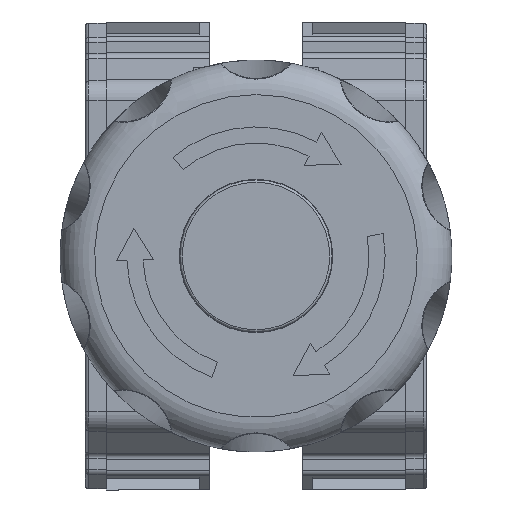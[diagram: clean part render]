
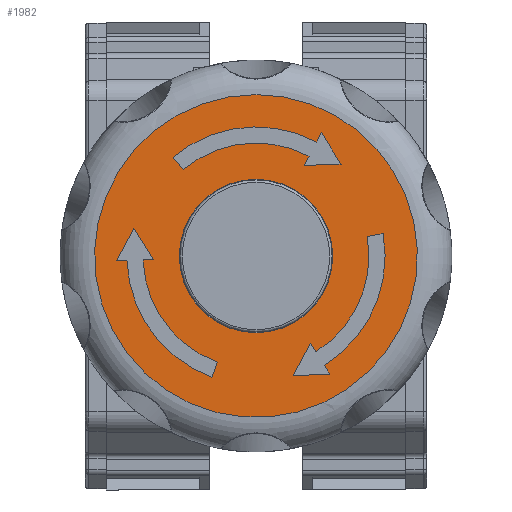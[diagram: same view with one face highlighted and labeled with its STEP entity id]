
A CAD part, left-side view. The second image highlights one B-rep face of the part: STEP entity #1982.
In plain terms, the highlighted planar face has unit normal (-1, 0, 0).
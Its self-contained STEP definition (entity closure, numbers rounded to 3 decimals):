
#1740=CARTESIAN_POINT('',(-35.,0.,6.65));
#1741=VERTEX_POINT('',#1740);
#1742=CARTESIAN_POINT('',(-35.,0.,0.));
#1743=DIRECTION('',(1.0,0.0,0.0));
#1744=DIRECTION('',(0.0,0.0,1.0));
#1745=AXIS2_PLACEMENT_3D('',#1742,#1743,#1744);
#1746=CIRCLE('',#1745,6.65);
#1747=EDGE_CURVE('',#1741,#1741,#1746,.T.);
#1783=CARTESIAN_POINT('',(-35.,0.,11.825));
#1784=DIRECTION('',(-1.0,0.0,0.0));
#1785=DIRECTION('',(0.0,-1.0,0.0));
#1786=AXIS2_PLACEMENT_3D('',#1783,#1784,#1785);
#1787=PLANE('',#1786);
#1788=CARTESIAN_POINT('',(-35.,0.,14.));
#1789=VERTEX_POINT('',#1788);
#1790=CARTESIAN_POINT('',(-35.,0.,0.));
#1791=DIRECTION('',(1.0,0.0,0.0));
#1792=DIRECTION('',(0.0,0.0,-1.0));
#1793=AXIS2_PLACEMENT_3D('',#1790,#1791,#1792);
#1794=CIRCLE('',#1793,14.);
#1795=EDGE_CURVE('',#1789,#1789,#1794,.T.);
#1796=ORIENTED_EDGE('',*,*,#1795,.F.);
#1797=EDGE_LOOP('',(#1796));
#1798=FACE_OUTER_BOUND('',#1797,.T.);
#1799=CARTESIAN_POINT('',(-35.,-5.258,9.889));
#1800=VERTEX_POINT('',#1799);
#1801=CARTESIAN_POINT('',(-35.,-5.681,10.684));
#1802=VERTEX_POINT('',#1801);
#1803=CARTESIAN_POINT('',(-35.,-5.258,9.889));
#1804=DIRECTION('',(0.,-0.469,0.883));
#1805=VECTOR('',#1804,0.9);
#1806=LINE('',#1803,#1805);
#1807=EDGE_CURVE('',#1800,#1802,#1806,.T.);
#1808=ORIENTED_EDGE('',*,*,#1807,.T.);
#1809=CARTESIAN_POINT('',(-35.,-7.376,7.97));
#1810=VERTEX_POINT('',#1809);
#1811=CARTESIAN_POINT('',(-35.,-5.681,10.684));
#1812=DIRECTION('',(0.,-0.53,-0.848));
#1813=VECTOR('',#1812,3.2);
#1814=LINE('',#1811,#1813);
#1815=EDGE_CURVE('',#1802,#1810,#1814,.T.);
#1816=ORIENTED_EDGE('',*,*,#1815,.T.);
#1817=CARTESIAN_POINT('',(-35.,-4.178,7.858));
#1818=VERTEX_POINT('',#1817);
#1819=CARTESIAN_POINT('',(-35.,-7.376,7.97));
#1820=DIRECTION('',(0.,0.999,-0.035));
#1821=VECTOR('',#1820,3.2);
#1822=LINE('',#1819,#1821);
#1823=EDGE_CURVE('',#1810,#1818,#1822,.T.);
#1824=ORIENTED_EDGE('',*,*,#1823,.T.);
#1825=CARTESIAN_POINT('',(-35.,-4.601,8.653));
#1826=VERTEX_POINT('',#1825);
#1827=CARTESIAN_POINT('',(-35.,-4.178,7.858));
#1828=DIRECTION('',(0.0,-0.469,0.883));
#1829=VECTOR('',#1828,0.9);
#1830=LINE('',#1827,#1829);
#1831=EDGE_CURVE('',#1818,#1826,#1830,.T.);
#1832=ORIENTED_EDGE('',*,*,#1831,.T.);
#1833=CARTESIAN_POINT('',(-35.,6.299,7.507));
#1834=VERTEX_POINT('',#1833);
#1835=CARTESIAN_POINT('',(-35.,0.,0.));
#1836=DIRECTION('',(-1.0,0.,0.));
#1837=DIRECTION('',(0.,-0.469,0.883));
#1838=AXIS2_PLACEMENT_3D('',#1835,#1836,#1837);
#1839=CIRCLE('',#1838,9.8);
#1840=EDGE_CURVE('',#1826,#1834,#1839,.T.);
#1841=ORIENTED_EDGE('',*,*,#1840,.T.);
#1842=CARTESIAN_POINT('',(-35.,7.199,8.58));
#1843=VERTEX_POINT('',#1842);
#1844=CARTESIAN_POINT('',(-35.,6.299,7.507));
#1845=DIRECTION('',(0.,0.643,0.766));
#1846=VECTOR('',#1845,1.4);
#1847=LINE('',#1844,#1846);
#1848=EDGE_CURVE('',#1834,#1843,#1847,.T.);
#1849=ORIENTED_EDGE('',*,*,#1848,.T.);
#1850=CARTESIAN_POINT('',(-35.,0.,0.));
#1851=DIRECTION('',(1.,0.,0.));
#1852=DIRECTION('',(0.,0.469,-0.883));
#1853=AXIS2_PLACEMENT_3D('',#1850,#1851,#1852);
#1854=CIRCLE('',#1853,11.2);
#1855=EDGE_CURVE('',#1843,#1800,#1854,.T.);
#1856=ORIENTED_EDGE('',*,*,#1855,.T.);
#1857=EDGE_LOOP('',(#1808,#1816,#1824,#1832,#1841,#1849,#1856));
#1858=FACE_BOUND('',#1857,.T.);
#1859=CARTESIAN_POINT('',(-35.,11.193,-0.391));
#1860=VERTEX_POINT('',#1859);
#1861=CARTESIAN_POINT('',(-35.,12.093,-0.422));
#1862=VERTEX_POINT('',#1861);
#1863=CARTESIAN_POINT('',(-35.,11.193,-0.391));
#1864=DIRECTION('',(0.,0.999,-0.035));
#1865=VECTOR('',#1864,0.9);
#1866=LINE('',#1863,#1865);
#1867=EDGE_CURVE('',#1860,#1862,#1866,.T.);
#1868=ORIENTED_EDGE('',*,*,#1867,.T.);
#1869=CARTESIAN_POINT('',(-35.,10.59,2.403));
#1870=VERTEX_POINT('',#1869);
#1871=CARTESIAN_POINT('',(-35.,12.093,-0.422));
#1872=DIRECTION('',(0.,-0.469,0.883));
#1873=VECTOR('',#1872,3.2);
#1874=LINE('',#1871,#1873);
#1875=EDGE_CURVE('',#1862,#1870,#1874,.T.);
#1876=ORIENTED_EDGE('',*,*,#1875,.T.);
#1877=CARTESIAN_POINT('',(-35.,8.895,-0.311));
#1878=VERTEX_POINT('',#1877);
#1879=CARTESIAN_POINT('',(-35.,10.59,2.403));
#1880=DIRECTION('',(0.,-0.53,-0.848));
#1881=VECTOR('',#1880,3.2);
#1882=LINE('',#1879,#1881);
#1883=EDGE_CURVE('',#1870,#1878,#1882,.T.);
#1884=ORIENTED_EDGE('',*,*,#1883,.T.);
#1885=CARTESIAN_POINT('',(-35.,9.794,-0.342));
#1886=VERTEX_POINT('',#1885);
#1887=CARTESIAN_POINT('',(-35.,8.895,-0.311));
#1888=DIRECTION('',(0.,0.999,-0.035));
#1889=VECTOR('',#1888,0.9);
#1890=LINE('',#1887,#1889);
#1891=EDGE_CURVE('',#1878,#1886,#1890,.T.);
#1892=ORIENTED_EDGE('',*,*,#1891,.T.);
#1893=CARTESIAN_POINT('',(-35.,3.352,-9.209));
#1894=VERTEX_POINT('',#1893);
#1895=CARTESIAN_POINT('',(-35.,0.,0.));
#1896=DIRECTION('',(-1.0,0.,0.));
#1897=DIRECTION('',(0.,0.999,-0.035));
#1898=AXIS2_PLACEMENT_3D('',#1895,#1896,#1897);
#1899=CIRCLE('',#1898,9.8);
#1900=EDGE_CURVE('',#1886,#1894,#1899,.T.);
#1901=ORIENTED_EDGE('',*,*,#1900,.T.);
#1902=CARTESIAN_POINT('',(-35.,3.831,-10.525));
#1903=VERTEX_POINT('',#1902);
#1904=CARTESIAN_POINT('',(-35.,3.352,-9.209));
#1905=DIRECTION('',(0.0,0.342,-0.94));
#1906=VECTOR('',#1905,1.4);
#1907=LINE('',#1904,#1906);
#1908=EDGE_CURVE('',#1894,#1903,#1907,.T.);
#1909=ORIENTED_EDGE('',*,*,#1908,.T.);
#1910=CARTESIAN_POINT('',(-35.,0.,0.));
#1911=DIRECTION('',(1.,0.,0.));
#1912=DIRECTION('',(0.,-0.999,0.035));
#1913=AXIS2_PLACEMENT_3D('',#1910,#1911,#1912);
#1914=CIRCLE('',#1913,11.2);
#1915=EDGE_CURVE('',#1903,#1860,#1914,.T.);
#1916=ORIENTED_EDGE('',*,*,#1915,.T.);
#1917=EDGE_LOOP('',(#1868,#1876,#1884,#1892,#1901,#1909,#1916));
#1918=FACE_BOUND('',#1917,.T.);
#1919=CARTESIAN_POINT('',(-35.,-5.935,-9.498));
#1920=VERTEX_POINT('',#1919);
#1921=CARTESIAN_POINT('',(-35.,-6.412,-10.261));
#1922=VERTEX_POINT('',#1921);
#1923=CARTESIAN_POINT('',(-35.,-5.935,-9.498));
#1924=DIRECTION('',(0.,-0.53,-0.848));
#1925=VECTOR('',#1924,0.9);
#1926=LINE('',#1923,#1925);
#1927=EDGE_CURVE('',#1920,#1922,#1926,.T.);
#1928=ORIENTED_EDGE('',*,*,#1927,.T.);
#1929=CARTESIAN_POINT('',(-35.,-3.214,-10.373));
#1930=VERTEX_POINT('',#1929);
#1931=CARTESIAN_POINT('',(-35.,-6.412,-10.261));
#1932=DIRECTION('',(0.,0.999,-0.035));
#1933=VECTOR('',#1932,3.2);
#1934=LINE('',#1931,#1933);
#1935=EDGE_CURVE('',#1922,#1930,#1934,.T.);
#1936=ORIENTED_EDGE('',*,*,#1935,.T.);
#1937=CARTESIAN_POINT('',(-35.,-4.716,-7.548));
#1938=VERTEX_POINT('',#1937);
#1939=CARTESIAN_POINT('',(-35.,-3.214,-10.373));
#1940=DIRECTION('',(0.,-0.469,0.883));
#1941=VECTOR('',#1940,3.2);
#1942=LINE('',#1939,#1941);
#1943=EDGE_CURVE('',#1930,#1938,#1942,.T.);
#1944=ORIENTED_EDGE('',*,*,#1943,.T.);
#1945=CARTESIAN_POINT('',(-35.,-5.193,-8.311));
#1946=VERTEX_POINT('',#1945);
#1947=CARTESIAN_POINT('',(-35.,-4.716,-7.548));
#1948=DIRECTION('',(0.,-0.53,-0.848));
#1949=VECTOR('',#1948,0.9);
#1950=LINE('',#1947,#1949);
#1951=EDGE_CURVE('',#1938,#1946,#1950,.T.);
#1952=ORIENTED_EDGE('',*,*,#1951,.T.);
#1953=CARTESIAN_POINT('',(-35.,-9.651,1.702));
#1954=VERTEX_POINT('',#1953);
#1955=CARTESIAN_POINT('',(-35.,0.,0.));
#1956=DIRECTION('',(-1.0,0.,0.));
#1957=DIRECTION('',(0.,-0.53,-0.848));
#1958=AXIS2_PLACEMENT_3D('',#1955,#1956,#1957);
#1959=CIRCLE('',#1958,9.8);
#1960=EDGE_CURVE('',#1946,#1954,#1959,.T.);
#1961=ORIENTED_EDGE('',*,*,#1960,.T.);
#1962=CARTESIAN_POINT('',(-35.,-11.03,1.945));
#1963=VERTEX_POINT('',#1962);
#1964=CARTESIAN_POINT('',(-35.,-9.651,1.702));
#1965=DIRECTION('',(0.,-0.985,0.174));
#1966=VECTOR('',#1965,1.4);
#1967=LINE('',#1964,#1966);
#1968=EDGE_CURVE('',#1954,#1963,#1967,.T.);
#1969=ORIENTED_EDGE('',*,*,#1968,.T.);
#1970=CARTESIAN_POINT('',(-35.,0.,0.));
#1971=DIRECTION('',(1.,0.,0.));
#1972=DIRECTION('',(0.,0.53,0.848));
#1973=AXIS2_PLACEMENT_3D('',#1970,#1971,#1972);
#1974=CIRCLE('',#1973,11.2);
#1975=EDGE_CURVE('',#1963,#1920,#1974,.T.);
#1976=ORIENTED_EDGE('',*,*,#1975,.T.);
#1977=EDGE_LOOP('',(#1928,#1936,#1944,#1952,#1961,#1969,#1976));
#1978=FACE_BOUND('',#1977,.T.);
#1979=ORIENTED_EDGE('',*,*,#1747,.T.);
#1980=EDGE_LOOP('',(#1979));
#1981=FACE_BOUND('',#1980,.T.);
#1982=ADVANCED_FACE('',(#1798,#1858,#1918,#1978,#1981),#1787,.T.);
